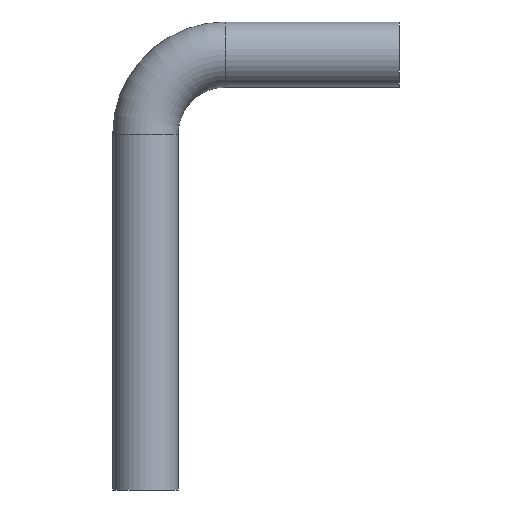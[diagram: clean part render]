
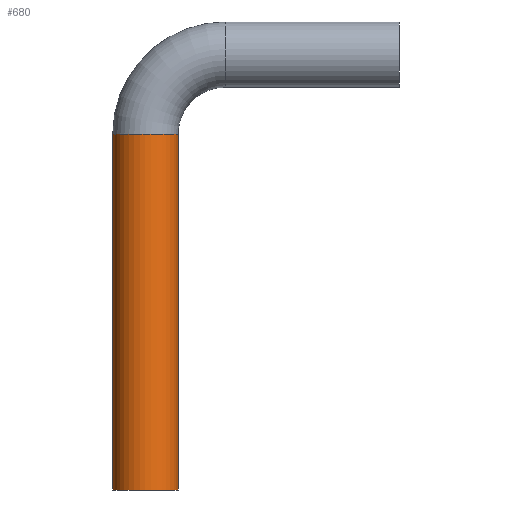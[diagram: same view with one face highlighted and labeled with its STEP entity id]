
A CAD part, front view. The second image highlights one B-rep face of the part: STEP entity #680.
In plain terms, the highlighted cylindrical face has radius 9 mm (diameter 18 mm), a partial arc.
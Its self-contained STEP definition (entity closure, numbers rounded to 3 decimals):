
#210=CARTESIAN_POINT('',(46.433,49.631,0.));
#220=DIRECTION('',(0.,0.,1.));
#230=DIRECTION('',(1.,0.,0.));
#240=AXIS2_PLACEMENT_3D('',#210,#220,#230);
#250=CIRCLE('',#240,9.);
#260=CARTESIAN_POINT('',(55.433,49.631,0.));
#270=VERTEX_POINT('',#260);
#280=CARTESIAN_POINT('',(37.433,49.631,0.));
#290=VERTEX_POINT('',#280);
#320=EDGE_CURVE('',#290,#270,#250,.T.);
#370=CARTESIAN_POINT('',(46.433,49.631,0.));
#380=DIRECTION('',(0.,0.,1.));
#390=DIRECTION('',(1.,0.,0.));
#400=AXIS2_PLACEMENT_3D('',#370,#380,#390);
#410=CYLINDRICAL_SURFACE('',#400,9.);
#420=CARTESIAN_POINT('',(55.433,49.631,0.));
#430=DIRECTION('',(0.,0.,1.));
#440=VECTOR('',#430,1.);
#450=LINE('',#420,#440);
#460=CARTESIAN_POINT('',(55.433,49.631,98.));
#470=VERTEX_POINT('',#460);
#480=EDGE_CURVE('',#270,#470,#450,.T.);
#490=ORIENTED_EDGE('',*,*,#480,.T.);
#500=ORIENTED_EDGE('',*,*,#320,.T.);
#510=CARTESIAN_POINT('',(37.433,49.631,0.));
#520=DIRECTION('',(0.,0.,1.));
#530=VECTOR('',#520,1.);
#540=LINE('',#510,#530);
#550=CARTESIAN_POINT('',(37.433,49.631,98.));
#560=VERTEX_POINT('',#550);
#570=EDGE_CURVE('',#290,#560,#540,.T.);
#580=ORIENTED_EDGE('',*,*,#570,.F.);
#590=CARTESIAN_POINT('',(46.433,49.631,98.));
#600=DIRECTION('',(0.,0.,1.));
#610=DIRECTION('',(1.,0.,0.));
#620=AXIS2_PLACEMENT_3D('',#590,#600,#610);
#630=CIRCLE('',#620,9.);
#640=EDGE_CURVE('',#560,#470,#630,.T.);
#650=ORIENTED_EDGE('',*,*,#640,.F.);
#660=EDGE_LOOP('',(#650,#580,#500,#490));
#670=FACE_OUTER_BOUND('',#660,.T.);
#680=ADVANCED_FACE('',(#670),#410,.T.);
